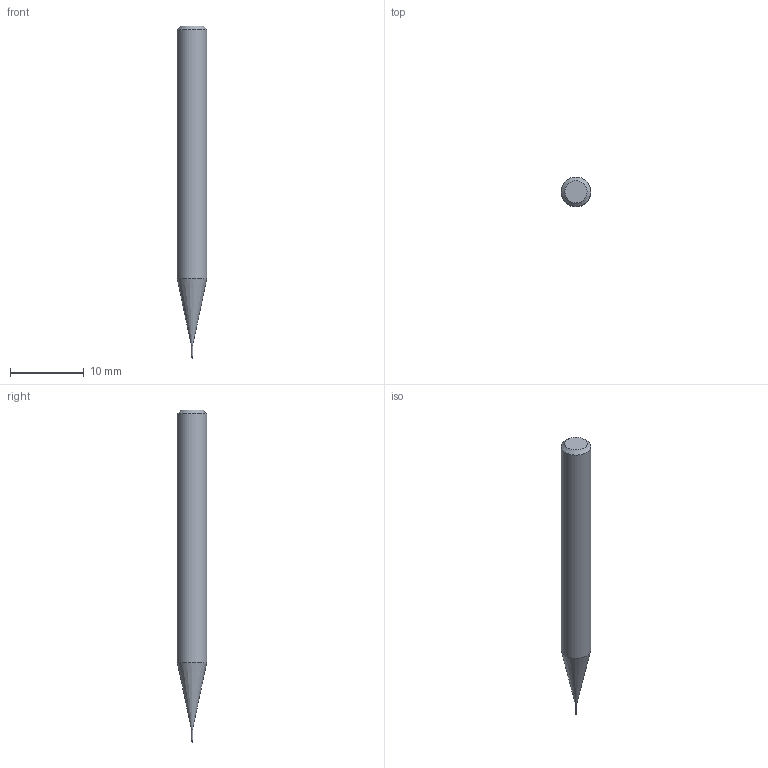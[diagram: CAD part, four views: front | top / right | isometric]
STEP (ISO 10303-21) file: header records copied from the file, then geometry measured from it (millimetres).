
FILE_DESCRIPTION((''),'2;1');
FILE_NAME('C:\Users\nsx150\AppData\Local\Temp\Mastercam 2021\ARV7HD45SN\TEMP.step','2023-06-13T16:32:08',(''),(''),'STEP Write','Mastercam 2021 ... CNC Software, Inc.','');
FILE_SCHEMA(('AUTOMOTIVE_DESIGN'));
Length unit declared in the file: millimetre
Products named in the file (1): None
Bounding box: 4 x 4 x 45 mm (x, y, z)
Volume: 468.6 mm3; surface area: 500.5 mm2
Topology: 2 solids, 2 shells, 9 faces, 14 edges, 8 vertices
Faces by surface type: plane 3, cylinder 3, cone 2, sphere 1
Full cylindrical faces by diameter (mm): 0.18 x1, 0.2 x1, 4 x1
Entity records: 211 total; most frequent: DIRECTION 36, CARTESIAN_POINT 25, AXIS2_PLACEMENT_3D 18, ORIENTED_EDGE 14, EDGE_LOOP 14, STYLED_ITEM 12, ADVANCED_FACE 9, FACE_BOUND 8
